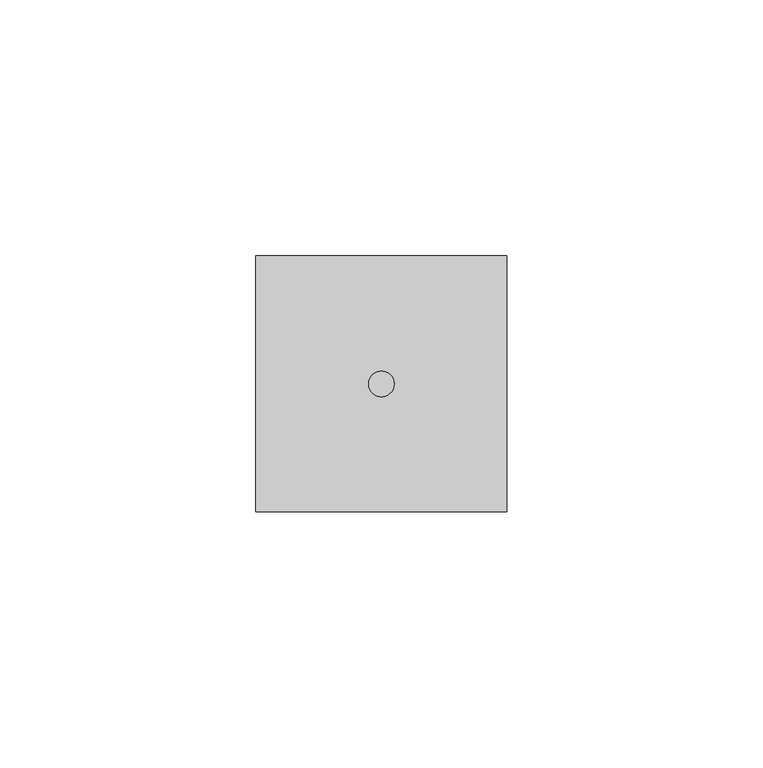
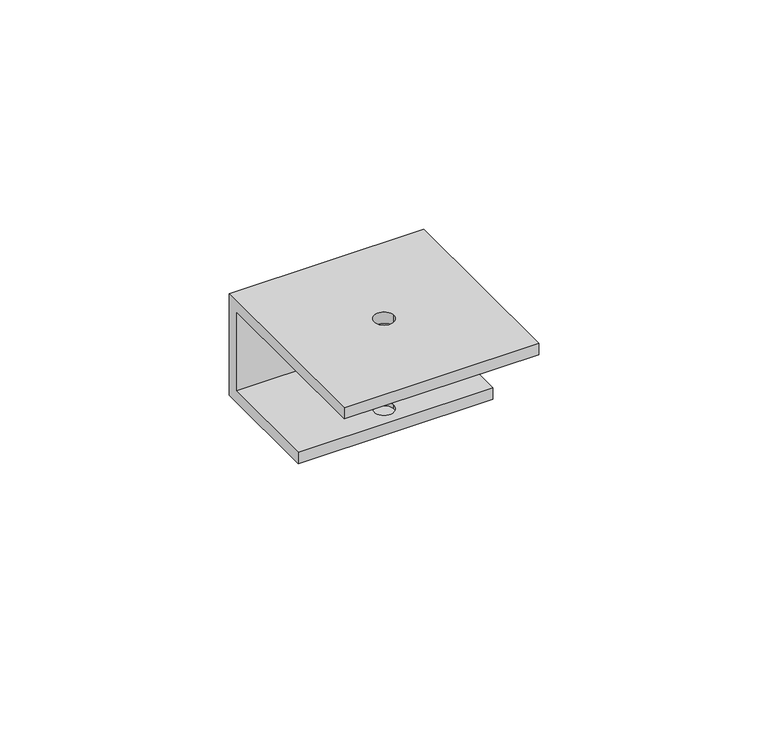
"""IFC4 building model written with IfcOpenShell, lengths in millimetres: proxy geometry, CV-EP8-01 END CAP : CV-EP8-01 END CAP."""

from ifc_helpers import new_model, si_unit, frame, origin, place, context, project, spatial, polyline, circle_curve, source, transform, mapped, element, save
from ifc_brep_helpers import plane_surface, revolved_surface, advanced_brep


def generic_models_e9cf81b0(model_context):
    return source(origin(), model_context, "Body", "AdvancedBrep", [
        advanced_brep(
        [(49.0, 0.0, 25.0), (49.0, -50.0, 25.0), (49.0, -50.0, 22.0), (49.0, -3.0, 22.0), (49.0, -3.0, 1.0), (49.0, -30.0, 1.0), (49.0, -30.0, -2.0), (49.0, 0.0, -2.0), (0.0, 0.0, 25.0), (0.0, 0.0, -2.0), (0.0, -30.0, -2.0), (0.0, -30.0, 1.0), (0.0, -3.0, 1.0), (0.0, -3.0, 22.0), (0.0, -50.0, 22.0), (0.0, -50.0, 25.0), (27.0, -25.0, 25.0), (22.0, -25.0, 25.0), (22.0, -25.0, 22.0), (27.0, -25.0, 22.0), (27.0, -25.0, 1.0), (22.0, -25.0, 1.0), (22.0, -25.0, 0.0), (27.0, -25.0, 0.0)],
        [
            (0, 1),
            (1, 2),
            (2, 3),
            (3, 4),
            (4, 5),
            (5, 6),
            (6, 7),
            (7, 0),
            (8, 9),
            (9, 10),
            (10, 11),
            (11, 12),
            (12, 13),
            (13, 14),
            (14, 15),
            (15, 8),
            (0, 8),
            (15, 1),
            (16, 17, circle_curve(frame((24.5, -25.0, 25.0), z_axis=(0.0, 0.0, -1.0), x_axis=(1.0, 0.0, 0.0)), 2.5)),
            (17, 16, circle_curve(frame((24.5, -25.0, 25.0), z_axis=(0.0, 0.0, -1.0), x_axis=(1.0, 0.0, 0.0)), 2.5)),
            (14, 2),
            (13, 3),
            (18, 19, circle_curve(frame((24.5, -25.0, 22.0), z_axis=(0.0, 0.0, 1.0), x_axis=(1.0, 0.0, 0.0)), 2.5)),
            (19, 18, circle_curve(frame((24.5, -25.0, 22.0), z_axis=(0.0, 0.0, 1.0), x_axis=(1.0, 0.0, 0.0)), 2.5)),
            (12, 4),
            (11, 5),
            (20, 21, circle_curve(frame((24.5, -25.0, 1.0), z_axis=(0.0, 0.0, -1.0), x_axis=(1.0, 0.0, 0.0)), 2.5)),
            (21, 20, circle_curve(frame((24.5, -25.0, 1.0), z_axis=(0.0, 0.0, -1.0), x_axis=(1.0, 0.0, 0.0)), 2.5)),
            (10, 6),
            (9, 7),
            (22, 23, circle_curve(frame((24.5, -25.0, 0.0), z_axis=(0.0, 0.0, 1.0), x_axis=(1.0, 0.0, 0.0)), 2.5)),
            (23, 22, circle_curve(frame((24.5, -25.0, 0.0), z_axis=(0.0, 0.0, 1.0), x_axis=(1.0, 0.0, 0.0)), 2.5)),
            (22, 21),
            (20, 23),
            (18, 17),
            (16, 19),
        ],
        [
            plane_surface(frame((49.0, 0.0, 25.0), z_axis=(1.0, 0.0, 0.0), x_axis=(0.0, -1.0, 0.0))),
            plane_surface(frame((0.0, 0.0, 25.0), z_axis=(-1.0, 0.0, 0.0), x_axis=(0.0, 1.0, 0.0))),
            plane_surface(frame((49.0, 0.0, 25.0), z_axis=(0.0, 0.0, 1.0), x_axis=(-1.0, 0.0, 0.0))),
            plane_surface(frame((49.0, -50.0, 25.0), z_axis=(0.0, -1.0, 0.0), x_axis=(-1.0, 0.0, 0.0))),
            plane_surface(frame((49.0, -50.0, 22.0), z_axis=(0.0, 0.0, -1.0), x_axis=(-1.0, 0.0, 0.0))),
            plane_surface(frame((49.0, -3.0, 22.0), z_axis=(0.0, -1.0, 0.0), x_axis=(-1.0, 0.0, 0.0))),
            plane_surface(frame((49.0, -3.0, 1.0), z_axis=(0.0, 0.0, 1.0), x_axis=(-1.0, 0.0, 0.0))),
            plane_surface(frame((49.0, -30.0, 1.0), z_axis=(0.0, -1.0, 0.0), x_axis=(-1.0, 0.0, 0.0))),
            plane_surface(frame((49.0, -30.0, -2.0), z_axis=(0.0, 0.0, -1.0), x_axis=(-1.0, 0.0, 0.0))),
            plane_surface(frame((49.0, 0.0, -2.0), z_axis=(0.0, 1.0, 0.0), x_axis=(-1.0, 0.0, 0.0))),
            plane_surface(frame((27.0, -25.0, 0.0), z_axis=(0.0, 0.0, 1.0), x_axis=(0.0, -1.0, 0.0))),
            revolved_surface(polyline([(27.0, -25.0, 1.0), (27.0, -25.0, 0.0)]), (24.5, -25.0, 0.0), (0.0, 0.0, 1.0)),
            revolved_surface(polyline([(27.0, -25.0, 25.0), (27.0, -25.0, 22.0)]), (24.5, -25.0, 0.0), (0.0, 0.0, 1.0)),
        ],
        [
            (0, [[1, 2, 3, 4, 5, 6, 7, 8]]),
            (1, [[9, 10, 11, 12, 13, 14, 15, 16]]),
            (2, [[-1, 17, -16, 18], [19, 20]]),
            (3, [[-2, -18, -15, 21]]),
            (4, [[-3, -21, -14, 22], [23, 24]]),
            (5, [[-4, -22, -13, 25]]),
            (6, [[-5, -25, -12, 26], [27, 28]]),
            (7, [[-6, -26, -11, 29]]),
            (8, [[-7, -29, -10, 30]]),
            (9, [[-8, -30, -9, -17]]),
            (10, [[31, 32]]),
            (11, [[-31, 33, -27, 34]]),
            (12, [[35, -19, 36, -23]]),
            (11, [[-32, -34, -28, -33]]),
            (12, [[-35, -24, -36, -20]]),
        ],
    ),
    ])


if __name__ == "__main__":
    model = new_model("IFC4")
    model_context = context("Model", 3, world=origin())
    ifc_project = project(units=[si_unit("LENGTHUNIT", "METRE", prefix="MILLI")], contexts=[model_context])
    site = spatial("IfcSite", under=ifc_project)
    building = spatial("IfcBuilding", under=site)
    placement = place(None, origin())
    generic_models_shape = generic_models_e9cf81b0(model_context)
    element("IfcBuildingElementProxy", 1, Name="CV-EP8-01 END CAP : CV-EP8-01 END CAP", ObjectType="CV-EP8-01 END CAP : CV-EP8-01 END CAP", at=placement, inside=building, context=model_context, shape_type="MappedRepresentation", body=[
        mapped(generic_models_shape, transform((0.0, 0.0, 0.0), x_axis=(1.0, 0.0, 0.0), y_axis=(0.0, 1.0, 0.0), z_axis=(0.0, 0.0, 1.0))),
    ])
    save(model, "model.ifc")
